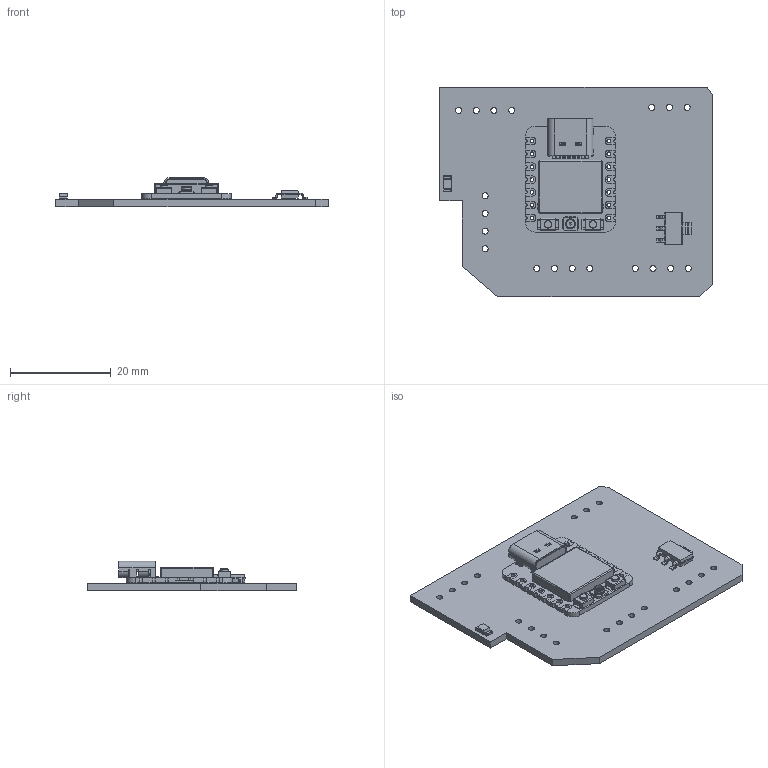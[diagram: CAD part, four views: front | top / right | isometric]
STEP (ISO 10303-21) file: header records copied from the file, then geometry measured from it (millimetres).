
FILE_DESCRIPTION(('KiCad electronic assembly'),'2;1');
FILE_NAME('XiaoBoard2.step','2025-03-04T18:56:47',('Pcbnew'),('Kicad'), 'Open CASCADE STEP processor 7.8','KiCad to STEP converter','Unknown' );
FILE_SCHEMA(('AUTOMOTIVE_DESIGN { 1 0 10303 214 1 1 1 1 }'));
Length unit declared in the file: millimetre
Products named in the file (35): XiaoBoard2 1; Seeed Studio XIAO-ESP32-C3; USB TYPE C PORT; USB TYPE C PORT (1); BOSS-EXTRUDE14_8_; BOSS-EXTRUDE7_4_; BOSS-EXTRUDE7_3_; BOSS-EXTRUDE14_4_; BOSS-EXTRUDE14_2_; BOSS-EXTRUDE14_11_; BOSS-EXTRUDE7_7_; BOSS-EXTRUDE14_9_; BOSS-EXTRUDE14_3_; BOSS-EXTRUDE14_7_; MIRROR2; BOSS-EXTRUDE14_5_; BOSS-EXTRUDE14_12_; BOSS-EXTRUDE7_8_; BOSS-EXTRUDE7_1_; BOSS-EXTRUDE14_10_; BOSS-EXTRUDE7_9_; BOSS-EXTRUDE14_6_; CHAMFER9; BOSS-EXTRUDE14_1_; BOSS-EXTRUDE7_6_; BOSS-EXTRUDE7_2_; CUT-EXTRUDE5; BOSS-EXTRUDE7_5_; U.FL Connector v1; Button (1); Shield; SOLID; LED_1206_3216Metric; SOT-223; XiaoBoard2_PCB
Assembly tree (35 placements, depth 5):
  XiaoBoard2 1
    Seeed Studio XIAO-ESP32-C3
      USB TYPE C PORT
        USB TYPE C PORT (1)
          BOSS-EXTRUDE14_8_
          BOSS-EXTRUDE7_4_
          BOSS-EXTRUDE7_3_
          BOSS-EXTRUDE14_4_
          BOSS-EXTRUDE14_2_
          BOSS-EXTRUDE14_11_
          BOSS-EXTRUDE7_7_
          BOSS-EXTRUDE14_9_
          BOSS-EXTRUDE14_3_
          BOSS-EXTRUDE14_7_
          MIRROR2
          BOSS-EXTRUDE14_5_
          BOSS-EXTRUDE14_12_
          BOSS-EXTRUDE7_8_
          BOSS-EXTRUDE7_1_
          BOSS-EXTRUDE14_10_
          BOSS-EXTRUDE7_9_
          BOSS-EXTRUDE14_6_
          CHAMFER9
          BOSS-EXTRUDE14_1_
          BOSS-EXTRUDE7_6_
          BOSS-EXTRUDE7_2_
          CUT-EXTRUDE5
          BOSS-EXTRUDE7_5_
      U.FL Connector v1
      Button (1)  x2
      Shield
      SOLID
    LED_1206_3216Metric
    SOT-223
    XiaoBoard2_PCB
Bounding box: 54 x 41.5 x 5.8 mm (x, y, z)
Volume: 3750 mm3; surface area: 6720.8 mm2
Topology: 34 solids, 34 shells, 1044 faces, 2713 edges, 1755 vertices
Faces by surface type: plane 731, cylinder 265, bspline 18, torus 14, cone 9, sphere 7
Full cylindrical faces by diameter (mm): 0.5 x3, 0.6 x2, 0.7 x2, 0.75 x14, 0.889 x14, 1.2 x19, 1.5 x2, 1.524 x6, 1.65 x1, 1.9 x1, 2 x2
Entity records: 35250 total; most frequent: CARTESIAN_POINT 5806, ORIENTED_EDGE 5312, DIRECTION 5280, EDGE_CURVE 2656, LINE 2078, VECTOR 2078, VERTEX_POINT 1723, AXIS2_PLACEMENT_3D 1601
